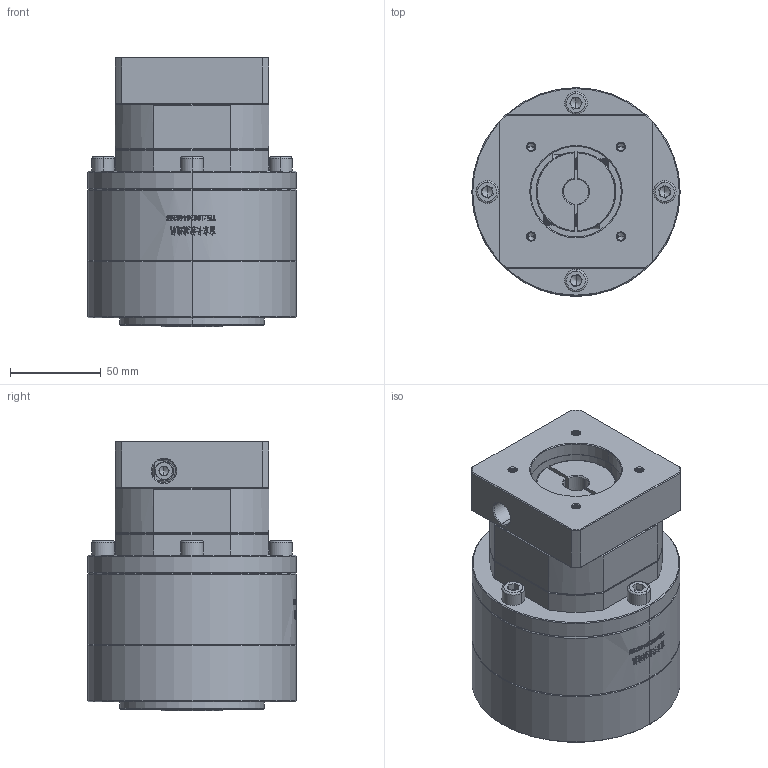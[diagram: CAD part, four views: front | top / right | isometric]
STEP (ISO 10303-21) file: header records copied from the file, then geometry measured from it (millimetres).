
FILE_DESCRIPTION (( 'STEP AP214' ), '1' );
FILE_NAME ('ZE120A-K25-L2-14-50-70-M5.step', '2023-03-13T06:52:56', ( '' ), ( '' ), 'SwSTEP 2.0', 'SolidWorks 2016', '' );
FILE_SCHEMA (( 'AUTOMOTIVE_DESIGN' ));
Length unit declared in the file: millimetre
Products named in the file (1): ZE120A-K25-L2-14-50-70-M5
Bounding box: 115 x 115 x 149 mm (x, y, z)
Volume: 1191584.3 mm3; surface area: 119594.2 mm2
Topology: 5 solids, 6 shells, 1971 faces, 5222 edges, 3342 vertices
Faces by surface type: plane 855, cylinder 467, bspline 339, cone 310
Entity records: 111791 total; most frequent: CARTESIAN_POINT 45673, ORIENTED_EDGE 10372, DIRECTION 7769, EDGE_CURVE 5186, VERTEX_POINT 3342, VECTOR 2765, LINE 2765, AXIS2_PLACEMENT_3D 2502
